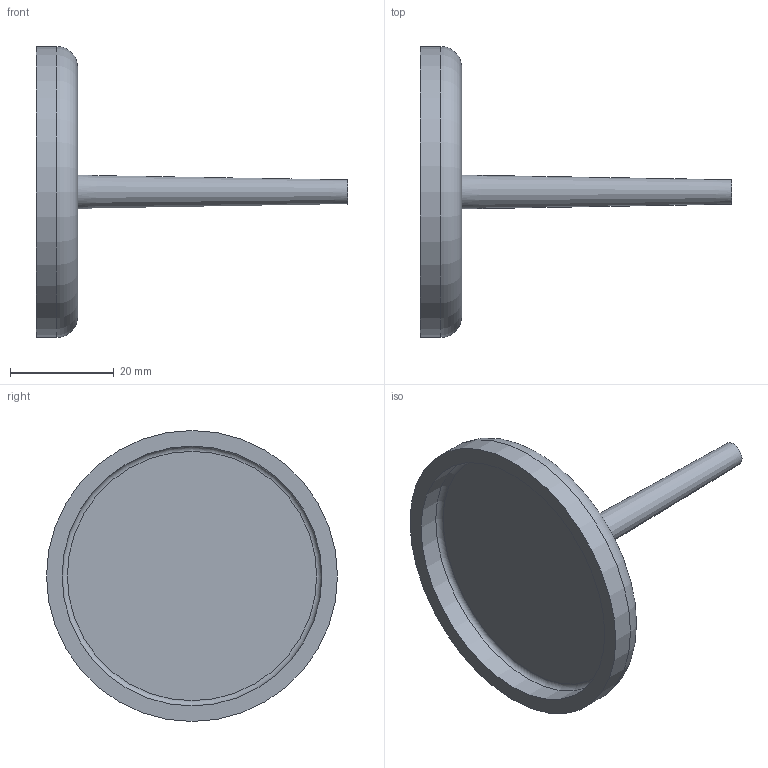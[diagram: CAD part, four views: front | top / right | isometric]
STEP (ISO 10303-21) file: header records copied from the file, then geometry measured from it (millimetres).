
FILE_DESCRIPTION(/* description */ (''),/* implementation_level */ '2;1');
FILE_NAME(/* name */ 'Z:\Geberit\Export\NewStep\Abschlussdeckel_Ipart\stp\363812.stp',/* time_stamp */ '2014-04-03T17:36:40+02:00',/* author */ ('Bründl'),/* organization */ (''),/* preprocessor_version */ 'ST-DEVELOPER v15.2',/* originating_system */ 'Autodesk Inventor 2014',/* authorisation */ '');
FILE_SCHEMA (('AUTOMOTIVE_DESIGN { 1 0 10303 214 3 1 1 }'));
Length unit declared in the file: millimetre
Products named in the file (1): 363812
Bounding box: 60 x 56 x 56 mm (x, y, z)
Volume: 10630.7 mm3; surface area: 7642.1 mm2
Topology: 1 solids, 1 shells, 9 faces, 13 edges, 8 vertices
Faces by surface type: plane 4, cylinder 2, torus 2, cone 1
Full cylindrical faces by diameter (mm): 50 x1, 56 x1
Entity records: 204 total; most frequent: DIRECTION 36, CARTESIAN_POINT 26, AXIS2_PLACEMENT_3D 18, EDGE_LOOP 16, ORIENTED_EDGE 16, STYLED_ITEM 10, ADVANCED_FACE 9, FACE_BOUND 8
